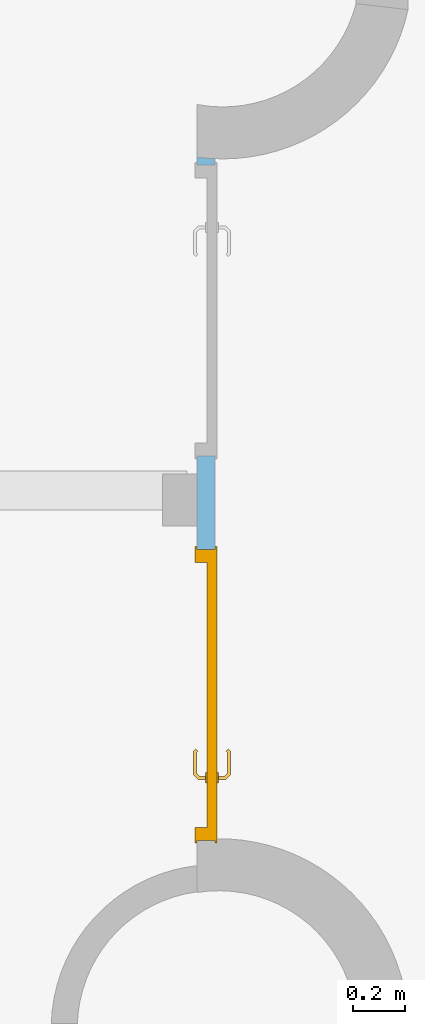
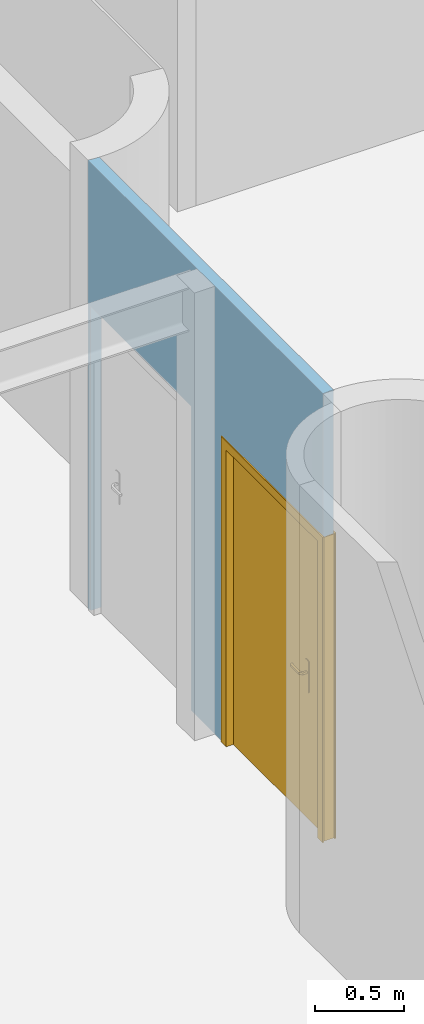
# One storey, part 4 of 7: 1 door, 2 openings, plus 1 element that does not belong to this part.
"""IFC2X3 building model written with IfcOpenShell, lengths in metres."""

from ifc_helpers import new_model, entity, si_unit, converted_unit, derived_unit, direction, frame, frame_2d, origin, place, context, subcontext, project, spatial, polyline, circle_curve, parameter, trimmed, segment, composite_curve, rectangle, outline, extrude, clip, bounded_halfspace, faceted_brep, source, transform, mapped, material, material_list, layer, layer_set, layer_usage, type_object, type_shapes, element, fill, save


model = new_model("IFC2X3")

# Units and contexts
model_context = context("Model", 3, precision=1e-05, world=origin(), true_north=direction((6.12303176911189e-17, 1.0)))
body_context = subcontext(model_context, "Body", "Model", "MODEL_VIEW")
ifc_project = project(units=[si_unit("LENGTHUNIT", "METRE"), si_unit("AREAUNIT", "SQUARE_METRE"), si_unit("VOLUMEUNIT", "CUBIC_METRE"), converted_unit("PLANEANGLEUNIT", "DEGREE", entity("IfcRatioMeasure", 0.0174532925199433), si_unit("PLANEANGLEUNIT", "RADIAN"), dimensions=[0, 0, 0, 0, 0, 0, 0]), si_unit("MASSUNIT", "GRAM", prefix="KILO"), derived_unit("MASSDENSITYUNIT", [(si_unit("MASSUNIT", "GRAM", prefix="KILO"), 1), (si_unit("LENGTHUNIT", "METRE"), -3)]), derived_unit("MOMENTOFINERTIAUNIT", [(si_unit("LENGTHUNIT", "METRE"), 4)]), si_unit("TIMEUNIT", "SECOND"), si_unit("FREQUENCYUNIT", "HERTZ"), si_unit("THERMODYNAMICTEMPERATUREUNIT", "DEGREE_CELSIUS"), derived_unit("THERMALTRANSMITTANCEUNIT", [(si_unit("MASSUNIT", "GRAM", prefix="KILO"), 1), (si_unit("THERMODYNAMICTEMPERATUREUNIT", "KELVIN"), -1), (si_unit("TIMEUNIT", "SECOND"), -3)]), derived_unit("VOLUMETRICFLOWRATEUNIT", [(si_unit("LENGTHUNIT", "METRE"), 3), (si_unit("TIMEUNIT", "SECOND"), -1)]), si_unit("ELECTRICCURRENTUNIT", "AMPERE"), si_unit("ELECTRICVOLTAGEUNIT", "VOLT"), si_unit("POWERUNIT", "WATT"), si_unit("FORCEUNIT", "NEWTON", prefix="KILO"), si_unit("ILLUMINANCEUNIT", "LUX"), si_unit("LUMINOUSFLUXUNIT", "LUMEN"), si_unit("LUMINOUSINTENSITYUNIT", "CANDELA"), derived_unit("USERDEFINED", [(si_unit("MASSUNIT", "GRAM", prefix="KILO"), -1), (si_unit("LENGTHUNIT", "METRE"), -2), (si_unit("TIMEUNIT", "SECOND"), 3), (si_unit("LUMINOUSFLUXUNIT", "LUMEN"), 1)]), derived_unit("LINEARVELOCITYUNIT", [(si_unit("LENGTHUNIT", "METRE"), 1), (si_unit("TIMEUNIT", "SECOND"), -1)]), si_unit("PRESSUREUNIT", "PASCAL"), derived_unit("USERDEFINED", [(si_unit("LENGTHUNIT", "METRE"), -2), (si_unit("MASSUNIT", "GRAM", prefix="KILO"), 1), (si_unit("TIMEUNIT", "SECOND"), -2)]), derived_unit("LINEARFORCEUNIT", [(si_unit("MASSUNIT", "GRAM", prefix="KILO"), 1), (si_unit("LENGTHUNIT", "METRE"), 1), (si_unit("TIMEUNIT", "SECOND"), -2), (si_unit("LENGTHUNIT", "METRE"), -1)]), derived_unit("PLANARFORCEUNIT", [(si_unit("MASSUNIT", "GRAM", prefix="KILO"), 1), (si_unit("LENGTHUNIT", "METRE"), 1), (si_unit("TIMEUNIT", "SECOND"), -2), (si_unit("LENGTHUNIT", "METRE"), -2)])], contexts=[model_context])

# Site, building, storey
site_placement = place(None, origin())
site = spatial("IfcSite", under=ifc_project, at=site_placement, Name="Default", CompositionType="ELEMENT")
building_placement = place(site_placement, origin())
building = spatial("IfcBuilding", under=site, at=building_placement, CompositionType="ELEMENT")
storey_placement = place(building_placement, frame((0.0, 0.0, 7.36730827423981)))
storey = spatial("IfcBuildingStorey", under=building, at=storey_placement, Name="Niveau 2", CompositionType="ELEMENT", Elevation=7.36730827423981)

# Wall, openings, door
ifc_material_1 = material(Name="Mur par défaut")
ifc_layer = layer(ifc_material_1, 0.07)
ifc_layer_set = layer_set([ifc_layer], Name="Mur de base:@_Générique - Int. 70 mm")
ifc_layer_usage = layer_usage(ifc_layer_set, "AXIS2", "NEGATIVE", 0.035)
wall_type = type_object("IfcWallType", Name="Mur de base:@_Générique - Int. 70 mm", PredefinedType="STANDARD", material=ifc_layer_set)
wall_placement = place(storey_placement, frame((-19.5215153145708, -1.9696922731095, 0.0), z_axis=(0.0, 0.0, 1.0), x_axis=(0.0, 1.0, 0.0)))
wall = element("IfcWallStandardCase", 1, at=wall_placement, inside=storey, type_object=wall_type, material=ifc_layer_usage, Name="Mur de base:@_Générique - Int. 70 mm", ObjectType="Mur de base:@_Générique - Int. 70 mm", context=body_context, shape_type="Clipping", body=[
    clip(extrude(outline(composite_curve([segment(polyline([(0.00474320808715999, -0.035), (2.62195450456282, -0.0350000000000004)]), True, "CONTINUOUS"), segment(trimmed(circle_curve(frame_2d((3.35136647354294, -0.0642947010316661), x_axis=(0.0, -1.0)), 0.73), [parameter(262.182386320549)], [parameter(267.700118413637)], True, "PARAMETER"), False, "CONTINUOUS"), segment(polyline([(2.62815104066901, 0.0349999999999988), (0.0, 0.0350000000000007)]), True, "CONTINUOUS"), segment(trimmed(circle_curve(frame_2d((-0.725116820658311, -0.0492946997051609), x_axis=(0.0, -1.0)), 0.73), [parameter(91.12202512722)], [parameter(96.6308611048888)], True, "PARAMETER"), False, "CONTINUOUS")], self_intersect=False)), origin(), (0.0, 0.0, 1.0), 3.05600000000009), bounded_halfspace(frame((0.00474320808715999, -0.0350000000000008, 3.05600000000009), z_axis=(0.0, 0.0, -1.0), x_axis=(1.0, 0.0, 0.0)), True, frame((0.00474320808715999, -0.0350000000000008, 3.05600000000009)), composite_curve([segment(polyline([(0.0, 0.0), (0.797726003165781, 0.0)]), True, "CONTINUOUS"), segment(trimmed(circle_curve(frame_2d((1.02005077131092, -0.00892902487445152), x_axis=(0.0, -1.0)), 0.73), [parameter(262.182386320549)], [parameter(267.700118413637)], True, "PARAMETER"), False, "CONTINUOUS"), segment(polyline([(0.799614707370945, 0.0213359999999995), (-0.00144572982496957, 0.0213360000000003)]), True, "CONTINUOUS"), segment(trimmed(circle_curve(frame_2d((-0.222461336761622, -0.00435702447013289), x_axis=(0.0, -1.0)), 0.73), [parameter(91.12202512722)], [parameter(96.6308611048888)], True, "PARAMETER"), False, "CONTINUOUS")], self_intersect=False))),
])
opening_1_placement = place(wall_placement, frame((2.59730059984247, 0.0350000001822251, 0.0)))
element("IfcOpeningElement", 2, at=opening_1_placement, cuts=wall, Name="Tierce  160:1.10m x 2.04m:1", ObjectType="Opening", context=body_context, shape_type="SweptSolid", body=[
    extrude(rectangle(XDim=2.075, YDim=1.12, at=frame_2d((1.0375, 0.559999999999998), x_axis=(1.0, 0.0))), frame((0.0, 0.0, 0.0), z_axis=(0.0, -1.0, 0.0), x_axis=(0.0, 0.0, 1.0)), (0.0, 0.0, 1.0), 0.07),
])
opening_2_placement = place(wall_placement, frame((1.1189490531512, 0.0350000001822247, 0.0)))
opening_2 = element("IfcOpeningElement", 3, at=opening_2_placement, cuts=wall, Name="Tierce  160:1.10m x 2.04m:1", ObjectType="Opening", context=body_context, shape_type="SweptSolid", body=[
    extrude(rectangle(XDim=2.075, YDim=1.12, at=frame_2d((1.0375, 0.559999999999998), x_axis=(1.0, 0.0))), frame((0.0, 0.0, 0.0), z_axis=(0.0, -1.0, 0.0), x_axis=(0.0, 0.0, 1.0)), (0.0, 0.0, 1.0), 0.07),
])
ifc_material_2 = material(Name="Porte - Poignée")
ifc_material_3 = material(Name="Porte - Cadre")
ifc_material_4 = material(Name="Verre")
ifc_material_5 = material(Name="Porte - Panneau")
ifc_material_list_1 = material_list([ifc_material_2, ifc_material_3, ifc_material_4, ifc_material_5])
ifc_material_list_2 = material_list([ifc_material_3, ifc_material_5, ifc_material_2, ifc_material_5])
door_style = type_object("IfcDoorStyle", Name="Tierce  160:1.10m x 2.04m", ConstructionType="NOTDEFINED", OperationType="NOTDEFINED", ParameterTakesPrecedence=False, Sizeable=False, material=ifc_material_list_2)
shared_shape = source(origin(), body_context, "Body", "Brep", [
    faceted_brep([(0.237974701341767, 0.0369999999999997, 1.00778044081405), (0.233999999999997, 0.0369999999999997, 1.00699999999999), (0.233999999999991, 0.0369999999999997, 0.992999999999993), (0.237974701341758, 0.0369999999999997, 0.992219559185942), (0.242025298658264, 0.0369999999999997, 0.992219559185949), (0.246000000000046, 0.0369999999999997, 0.993000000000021), (0.24600000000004, 0.0369999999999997, 1.00699999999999), (0.242025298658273, 0.0369999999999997, 1.00778044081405), (0.246000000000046, 0.0594852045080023, 0.993000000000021), (0.246000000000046, 0.0594852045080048, 1.00699999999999), (0.242025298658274, 0.0611315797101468, 1.00778044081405), (0.255838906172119, 0.0749451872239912, 1.00778044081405), (0.254161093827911, 0.0789957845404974, 1.00778044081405), (0.237974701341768, 0.0628093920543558, 1.00778044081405), (0.345684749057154, 0.0684673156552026, 1.00778044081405), (0.348548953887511, 0.0713315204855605, 1.00778044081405), (0.340884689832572, 0.0789957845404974, 1.00778044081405), (0.339206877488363, 0.0749451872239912, 1.00778044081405), (0.233999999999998, 0.0644557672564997, 1.00699999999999), (0.233999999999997, 0.0644557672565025, 0.992999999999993), (0.237974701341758, 0.0628093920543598, 0.992219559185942), (0.254161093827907, 0.0789957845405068, 0.992219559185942), (0.255838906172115, 0.0749451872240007, 0.992219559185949), (0.242025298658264, 0.0611315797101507, 0.992219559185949), (0.348548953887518, 0.0713315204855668, 0.992219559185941), (0.34568474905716, 0.068467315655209, 0.992219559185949), (0.339206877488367, 0.0749451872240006, 0.992219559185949), (0.340884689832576, 0.0789957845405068, 0.992219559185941), (0.257485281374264, 0.0709704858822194, 0.993000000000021), (0.257485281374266, 0.0709704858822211, 1.00699999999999), (0.252514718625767, 0.0829704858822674, 1.00699999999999), (0.252514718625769, 0.0829704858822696, 0.992999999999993), (0.297522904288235, 0.0709704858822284, 0.993000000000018), (0.337560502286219, 0.0709704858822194, 0.993000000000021), (0.337560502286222, 0.0709704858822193, 1.00699999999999), (0.297522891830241, 0.0709704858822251, 1.00699999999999), (0.297522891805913, 0.0771249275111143, 1.00787811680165), (0.342531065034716, 0.0829704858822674, 1.00699999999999), (0.302600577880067, 0.0829704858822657, 1.00699999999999), (0.342531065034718, 0.0829704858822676, 0.992999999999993), (0.292445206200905, 0.0829704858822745, 0.992999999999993), (0.297522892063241, 0.0771249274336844, 0.992121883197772), (0.342874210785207, 0.0656567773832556, 0.993000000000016), (0.351359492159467, 0.0741420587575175, 0.992999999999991), (0.351359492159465, 0.0741420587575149, 1.00699999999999), (0.342874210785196, 0.0656567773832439, 1.00699999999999)], [[[0, 1, 2, 3, 4, 5, 6, 7]], [[6, 5, 8, 9]], [[9, 10, 7, 6]], [[10, 11, 12, 13, 0, 7]], [[14, 15, 16, 17]], [[13, 18, 1, 0]], [[2, 1, 18, 19]], [[19, 20, 3, 2]], [[20, 21, 22, 23, 4, 3]], [[24, 25, 26, 27]], [[23, 8, 5, 4]], [[9, 8, 28, 29]], [[29, 11, 10, 9]], [[12, 30, 18, 13]], [[19, 18, 30, 31]], [[31, 21, 20, 19]], [[22, 28, 8, 23]], [[29, 28, 32, 33, 34, 35]], [[11, 35, 36]], [[16, 37, 38]], [[30, 12, 38]], [[38, 12, 36]], [[36, 35, 17]], [[17, 16, 36]], [[35, 11, 29]], [[34, 17, 35]], [[11, 36, 12]], [[38, 36, 16]], [[31, 30, 38, 37, 39, 40]], [[40, 41, 21]], [[41, 40, 27]], [[21, 31, 40]], [[39, 27, 40]], [[41, 32, 22]], [[22, 21, 41]], [[26, 32, 41]], [[28, 22, 32]], [[32, 26, 33]], [[26, 41, 27]], [[42, 25, 24, 43, 44, 15, 14, 45]], [[34, 33, 42, 45]], [[45, 14, 17, 34]], [[15, 44, 37, 16]], [[39, 37, 44, 43]], [[43, 24, 27, 39]], [[25, 42, 33, 26]]]),
    faceted_brep([(0.237974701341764, -0.0130000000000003, 1.00778044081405), (0.24202529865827, -0.0130000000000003, 1.00778044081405), (0.246000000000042, -0.0130000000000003, 1.00699999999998), (0.246000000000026, -0.0130000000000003, 0.993000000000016), (0.242025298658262, -0.0130000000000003, 0.992219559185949), (0.237974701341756, -0.0130000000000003, 0.992219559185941), (0.233999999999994, -0.0130000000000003, 0.992999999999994), (0.233999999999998, -0.0130000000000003, 1.00699999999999), (0.233999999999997, -0.040650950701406, 1.00699999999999), (0.237974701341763, -0.0390045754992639, 1.00778044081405), (0.254023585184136, -0.0550534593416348, 1.00778044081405), (0.255701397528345, -0.0510028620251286, 1.00778044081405), (0.24202529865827, -0.0373267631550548, 1.00778044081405), (0.348521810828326, -0.0473891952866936, 1.00778044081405), (0.345657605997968, -0.0445249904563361, 1.00778044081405), (0.339179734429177, -0.0510028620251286, 1.00778044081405), (0.340857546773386, -0.0550534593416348, 1.00778044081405), (0.246000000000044, -0.0356803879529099, 1.00699999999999), (0.246000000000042, -0.0356803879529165, 0.993000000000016), (0.242025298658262, -0.0373267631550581, 0.992219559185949), (0.255701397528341, -0.0510028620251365, 0.992219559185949), (0.254023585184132, -0.0550534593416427, 0.992219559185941), (0.237974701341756, -0.0390045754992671, 0.992219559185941), (0.345657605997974, -0.0445249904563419, 0.992219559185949), (0.348521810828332, -0.0473891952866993, 0.992219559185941), (0.340857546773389, -0.0550534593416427, 0.992219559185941), (0.33917973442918, -0.0510028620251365, 0.992219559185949), (0.233999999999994, -0.0406509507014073, 0.992999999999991), (0.252377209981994, -0.0590281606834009, 1.00699999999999), (0.25734777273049, -0.0470281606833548, 1.00699999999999), (0.257347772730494, -0.0470281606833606, 0.993000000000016), (0.252377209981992, -0.0590281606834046, 0.992999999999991), (0.29230769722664, -0.0590281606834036, 1.00699999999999), (0.297440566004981, -0.0531828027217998, 1.00787811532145), (0.342503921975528, -0.0590281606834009, 1.00699999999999), (0.297440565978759, -0.0470281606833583, 1.00699999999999), (0.337533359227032, -0.0470281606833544, 1.00699999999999), (0.337533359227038, -0.0470281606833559, 0.993000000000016), (0.297440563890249, -0.0470281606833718, 0.993000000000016), (0.297440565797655, -0.0531828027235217, 0.992121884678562), (0.342503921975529, -0.0590281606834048, 0.992999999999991), (0.302573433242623, -0.0590281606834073, 0.992999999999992), (0.342847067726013, -0.0417144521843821, 1.00699999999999), (0.351332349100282, -0.0501997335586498, 1.00699999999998), (0.351332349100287, -0.0501997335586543, 0.992999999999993), (0.342847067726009, -0.0417144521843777, 0.993000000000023)], [[[0, 1, 2, 3, 4, 5, 6, 7]], [[8, 9, 0, 7]], [[9, 10, 11, 12, 1, 0]], [[13, 14, 15, 16]], [[12, 17, 2, 1]], [[3, 2, 17, 18]], [[18, 19, 4, 3]], [[19, 20, 21, 22, 5, 4]], [[23, 24, 25, 26]], [[22, 27, 6, 5]], [[7, 6, 27, 8]], [[28, 10, 9, 8]], [[11, 29, 17, 12]], [[18, 17, 29, 30]], [[30, 20, 19, 18]], [[21, 31, 27, 22]], [[8, 27, 31, 28]], [[32, 33, 10]], [[33, 32, 16]], [[10, 28, 32]], [[34, 16, 32]], [[33, 35, 11]], [[11, 10, 33]], [[15, 35, 33]], [[29, 11, 35]], [[35, 15, 36]], [[15, 33, 16]], [[30, 29, 35, 36, 37, 38]], [[20, 38, 39]], [[25, 40, 41]], [[31, 21, 41]], [[41, 21, 39]], [[39, 38, 26]], [[26, 25, 39]], [[38, 20, 30]], [[37, 26, 38]], [[20, 39, 21]], [[41, 39, 25]], [[28, 31, 41, 40, 34, 32]], [[42, 14, 13, 43, 44, 24, 23, 45]], [[43, 13, 16, 34]], [[14, 42, 36, 15]], [[37, 36, 42, 45]], [[45, 23, 26, 37]], [[24, 44, 40, 25]], [[34, 40, 44, 43]]]),
    faceted_brep([(0.250352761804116, 0.0319999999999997, 0.866003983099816), (0.260000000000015, 0.0319999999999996, 0.870000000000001), (0.260000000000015, 0.0319999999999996, 1.08), (0.250352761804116, 0.0319999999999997, 1.08399601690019), (0.240000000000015, 0.0319999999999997, 1.08535898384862), (0.229647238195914, 0.0319999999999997, 1.08399601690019), (0.220000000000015, 0.0319999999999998, 1.08), (0.220000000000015, 0.0319999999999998, 0.870000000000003), (0.229647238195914, 0.0319999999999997, 0.866003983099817), (0.240000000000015, 0.0319999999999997, 0.864641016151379), (0.250352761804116, 0.0369999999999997, 1.08399601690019), (0.260000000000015, 0.0369999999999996, 1.08), (0.260000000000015, 0.0369999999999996, 0.870000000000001), (0.250352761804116, 0.0369999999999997, 0.866003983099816), (0.240000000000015, 0.0369999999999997, 0.864641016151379), (0.229647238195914, 0.0369999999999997, 0.866003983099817), (0.220000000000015, 0.0369999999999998, 0.870000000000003), (0.220000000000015, 0.0369999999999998, 1.08), (0.229647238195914, 0.0369999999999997, 1.08399601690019), (0.240000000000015, 0.0369999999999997, 1.08535898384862)], [[[0, 1, 2, 3, 4, 5, 6, 7, 8, 9]], [[10, 11, 12, 13, 14, 15, 16, 17, 18, 19]], [[11, 10, 3, 2]], [[3, 10, 19, 4]], [[19, 18, 5, 4]], [[18, 17, 6, 5]], [[7, 6, 17, 16]], [[16, 15, 8, 7]], [[8, 15, 14, 9]], [[14, 13, 0, 9]], [[13, 12, 1, 0]], [[2, 1, 12, 11]]]),
    faceted_brep([(0.250352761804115, -0.0130000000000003, 0.866003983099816), (0.260000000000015, -0.0130000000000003, 0.870000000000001), (0.260000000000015, -0.0130000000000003, 1.08), (0.250352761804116, -0.0130000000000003, 1.08399601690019), (0.240000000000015, -0.0130000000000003, 1.08535898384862), (0.229647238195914, -0.0130000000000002, 1.08399601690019), (0.220000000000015, -0.0130000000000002, 1.08), (0.220000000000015, -0.0130000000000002, 0.870000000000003), (0.229647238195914, -0.0130000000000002, 0.866003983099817), (0.240000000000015, -0.0130000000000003, 0.864641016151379), (0.250352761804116, -0.00800000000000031, 1.08399601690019), (0.260000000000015, -0.00800000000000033, 1.08), (0.260000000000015, -0.00800000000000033, 0.870000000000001), (0.250352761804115, -0.00800000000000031, 0.866003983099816), (0.240000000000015, -0.00800000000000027, 0.864641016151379), (0.229647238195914, -0.00800000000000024, 0.866003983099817), (0.220000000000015, -0.0080000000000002, 0.870000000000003), (0.220000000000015, -0.0080000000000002, 1.08), (0.229647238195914, -0.00800000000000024, 1.08399601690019), (0.240000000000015, -0.00800000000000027, 1.08535898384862)], [[[0, 1, 2, 3, 4, 5, 6, 7, 8, 9]], [[10, 11, 12, 13, 14, 15, 16, 17, 18, 19]], [[16, 15, 8, 7]], [[8, 15, 14, 9]], [[14, 13, 0, 9]], [[13, 12, 1, 0]], [[2, 1, 12, 11]], [[11, 10, 3, 2]], [[3, 10, 19, 4]], [[19, 18, 5, 4]], [[18, 17, 6, 5]], [[7, 6, 17, 16]]]),
    faceted_brep([(1.12000000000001, 0.0, 0.0), (1.13000000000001, 0.0, 0.0), (1.13000000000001, -0.00799999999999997, 0.0), (1.08500000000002, -0.00799999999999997, 0.0), (1.08500000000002, 0.032, 0.0), (1.07000000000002, 0.032, 0.0), (1.07000000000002, 0.0779999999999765, 0.0), (1.13000000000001, 0.0779999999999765, 0.0), (1.13000000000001, 0.0699999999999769, 0.0), (1.12000000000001, 0.0699999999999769, 0.0), (1.12000000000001, 0.0699999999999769, 2.075), (1.12000000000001, 0.0, 2.075), (1.13000000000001, 0.0699999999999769, 2.085), (-0.00999999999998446, 0.0699999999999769, 2.085), (-0.0099999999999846, 0.0699999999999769, 0.0), (0.0, 0.0699999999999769, 0.0), (0.0, 0.0699999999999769, 2.075), (1.13000000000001, 0.0779999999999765, 2.085), (1.07000000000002, 0.0779999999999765, 2.025), (0.050000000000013, 0.0779999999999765, 2.025), (0.050000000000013, 0.0779999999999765, 0.0), (-0.00999999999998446, 0.0779999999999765, 0.0), (-0.00999999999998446, 0.0779999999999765, 2.085), (1.07000000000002, 0.032, 2.025), (1.08500000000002, 0.032, 2.04), (0.0350000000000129, 0.032, 2.04), (0.035000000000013, 0.032, 0.0), (0.050000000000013, 0.032, 0.0), (0.050000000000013, 0.032, 2.025), (1.08500000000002, -0.00799999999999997, 2.04), (1.13000000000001, -0.00799999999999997, 2.085), (-0.00999999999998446, -0.00799999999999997, 2.085), (-0.0099999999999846, -0.00799999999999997, 0.0), (0.0350000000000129, -0.00799999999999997, 0.0), (0.0350000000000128, -0.00799999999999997, 2.04), (1.13000000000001, 0.0, 2.085), (0.0, 0.0, 2.075), (0.0, 0.0, 0.0), (-0.00999999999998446, 0.0, 0.0), (-0.00999999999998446, 0.0, 2.085)], [[[0, 1, 2, 3, 4, 5, 6, 7, 8, 9]], [[9, 10, 11, 0]], [[8, 12, 13, 14, 15, 16, 10, 9]], [[7, 17, 12, 8]], [[6, 18, 19, 20, 21, 22, 17, 7]], [[5, 23, 18, 6]], [[4, 24, 25, 26, 27, 28, 23, 5]], [[3, 29, 24, 4]], [[2, 30, 31, 32, 33, 34, 29, 3]], [[1, 35, 30, 2]], [[0, 11, 36, 37, 38, 39, 35, 1]], [[16, 15, 37, 36]], [[37, 15, 14, 21, 20, 27, 26, 33, 32, 38]], [[22, 21, 14, 13]], [[28, 27, 20, 19]], [[34, 33, 26, 25]], [[39, 38, 32, 31]], [[10, 16, 36, 11]], [[17, 22, 13, 12]], [[23, 28, 19, 18]], [[29, 34, 25, 24]], [[35, 39, 31, 30]]]),
    faceted_brep([(0.0950000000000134, -0.00799999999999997, 1.03749999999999), (0.125000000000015, -0.00799999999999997, 1.03749999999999), (0.125000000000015, -0.00799999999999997, 1.98), (0.0950000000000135, -0.00799999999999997, 1.98), (0.0950000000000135, 0.032, 1.98), (0.0950000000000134, 0.032, 1.03749999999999), (0.125000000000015, 0.032, 1.98), (0.125000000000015, 0.032, 1.03749999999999)], [[[0, 1, 2, 3]], [[3, 4, 5, 0]], [[2, 6, 4, 3]], [[1, 7, 6, 2]], [[0, 5, 7, 1]], [[5, 4, 6, 7]]]),
    faceted_brep([(0.125000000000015, 0.032, 0.837499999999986), (0.125000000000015, 0.032, 0.06), (0.0950000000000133, 0.032, 0.06), (0.0950000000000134, 0.032, 0.837499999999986), (0.125000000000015, -0.00799999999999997, 0.06), (0.125000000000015, -0.00799999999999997, 0.837499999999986), (0.0950000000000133, -0.00799999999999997, 0.06), (0.0950000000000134, -0.00799999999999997, 0.837499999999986)], [[[0, 1, 2, 3]], [[4, 1, 0, 5]], [[6, 2, 1, 4]], [[7, 3, 2, 6]], [[5, 0, 3, 7]], [[5, 7, 6, 4]]]),
    faceted_brep([(0.0350000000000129, -0.00799999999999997, 2.04), (0.0350000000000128, -0.00799999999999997, 0.0), (0.185000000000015, -0.00799999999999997, 0.0), (0.185000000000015, -0.00799999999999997, 2.04), (0.125000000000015, -0.00799999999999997, 0.837499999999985), (0.125000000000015, -0.00799999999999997, 0.0600000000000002), (0.0950000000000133, -0.00799999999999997, 0.0600000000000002), (0.0950000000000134, -0.00799999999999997, 0.837499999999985), (0.0950000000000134, -0.00799999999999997, 1.03749999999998), (0.0950000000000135, -0.00799999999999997, 1.98), (0.125000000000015, -0.00799999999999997, 1.98), (0.125000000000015, -0.00799999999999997, 1.03749999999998), (0.0350000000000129, 0.032, 2.04), (0.185000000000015, 0.032, 2.04), (0.185000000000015, 0.032, 0.0), (0.0350000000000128, 0.032, 0.0), (0.125000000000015, 0.032, 0.837499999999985), (0.0950000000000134, 0.032, 0.837499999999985), (0.0950000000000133, 0.032, 0.0600000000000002), (0.125000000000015, 0.032, 0.0600000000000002), (0.0950000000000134, 0.032, 1.03749999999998), (0.125000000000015, 0.032, 1.03749999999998), (0.125000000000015, 0.032, 1.98), (0.0950000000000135, 0.032, 1.98)], [[[0, 1, 2, 3], [4, 5, 6, 7], [8, 9, 10, 11]], [[12, 13, 14, 15], [16, 17, 18, 19], [20, 21, 22, 23]], [[3, 13, 12, 0]], [[2, 14, 13, 3]], [[1, 15, 14, 2]], [[0, 12, 15, 1]], [[7, 17, 16, 4]], [[6, 18, 17, 7]], [[5, 19, 18, 6]], [[4, 16, 19, 5]], [[11, 21, 20, 8]], [[10, 22, 21, 11]], [[9, 23, 22, 10]], [[8, 20, 23, 9]]]),
    faceted_brep([(1.08500000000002, -0.00799999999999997, 0.0), (1.08500000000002, -0.00799999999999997, 2.04), (0.185000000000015, -0.00799999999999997, 2.04), (0.185000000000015, -0.00799999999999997, 0.0), (1.08500000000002, 0.032, 0.0), (0.185000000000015, 0.032, 0.0), (0.185000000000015, 0.032, 2.04), (1.08500000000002, 0.032, 2.04)], [[[0, 1, 2, 3]], [[4, 5, 6, 7]], [[3, 5, 4, 0]], [[2, 6, 5, 3]], [[1, 7, 6, 2]], [[0, 4, 7, 1]]]),
])
type_shapes(door_style, [shared_shape])
door_placement = place(opening_2_placement, frame((-1.12000000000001, -0.0700000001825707, 0.0)))
door = element("IfcDoor", 4, at=door_placement, inside=storey, type_object=door_style, material=ifc_material_list_1, Name="Tierce  160:1.10m x 2.04m", ObjectType="Tierce  160:1.10m x 2.04m", OverallHeight=2.075, OverallWidth=1.12, context=body_context, shape_type="MappedRepresentation", body=[
    mapped(shared_shape, transform((0.0, 0.0, 0.0), scale=1.0)),
])
fill(opening_2, door)

save(model, "model.ifc")
